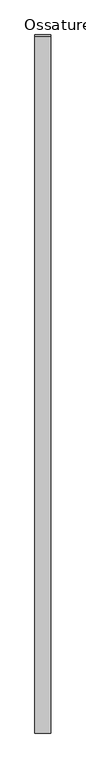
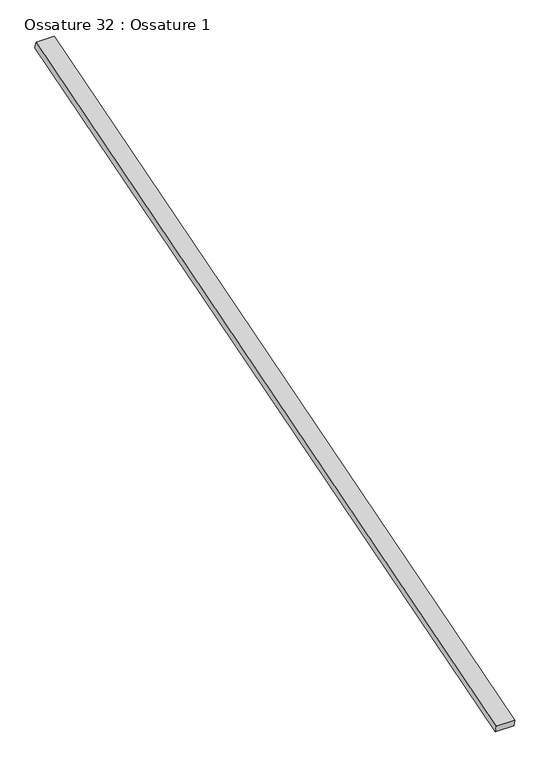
"""IFC4 building model written with IfcOpenShell, lengths in millimetres: beam geometry, Ossature 32 : Ossature 1."""

from ifc_helpers import new_model, si_unit, frame, origin, place, context, project, spatial, polyline, outline, extrude, source, transform, mapped, element, save


def ossature_32_ossature_1_db0ff218(model_context):
    return source(origin(), model_context, "Body", "SweptSolid", [
        extrude(outline(polyline([(0.0, 0.0), (0.0, -4543.0299679), (-100.0, -4543.0299679), (-100.0, 0.0), (0.0, 0.0)])), frame((7925.2466393, -833.3913565, 8153.6336115), z_axis=(0.0, -0.28734788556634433, 0.9578262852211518), x_axis=(-1.0, 0.0, 0.0)), (0.0, 0.0, 1.0), 40.0),
    ])


if __name__ == "__main__":
    model = new_model("IFC4")
    model_context = context("Model", 3, world=origin())
    ifc_project = project(units=[si_unit("LENGTHUNIT", "METRE", prefix="MILLI")], contexts=[model_context])
    site = spatial("IfcSite", under=ifc_project)
    building = spatial("IfcBuilding", under=site)
    placement = place(None, origin())
    ossature_32_ossature_1_shape = ossature_32_ossature_1_db0ff218(model_context)
    element("IfcBeam", 1, ObjectType="Ossature 32 : Ossature 1", at=placement, inside=building, context=model_context, shape_type="MappedRepresentation", body=[
        mapped(ossature_32_ossature_1_shape, transform((0.0, 0.0, 0.0), x_axis=(1.0, 0.0, 0.0), y_axis=(0.0, 1.0, 0.0), z_axis=(0.0, 0.0, 1.0))),
    ])
    save(model, "model.ifc")
